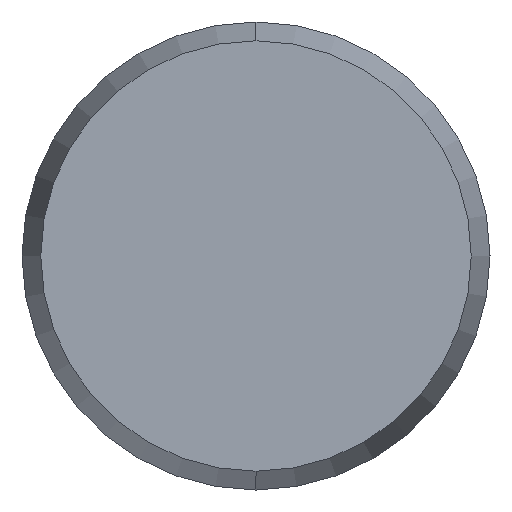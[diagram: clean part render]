
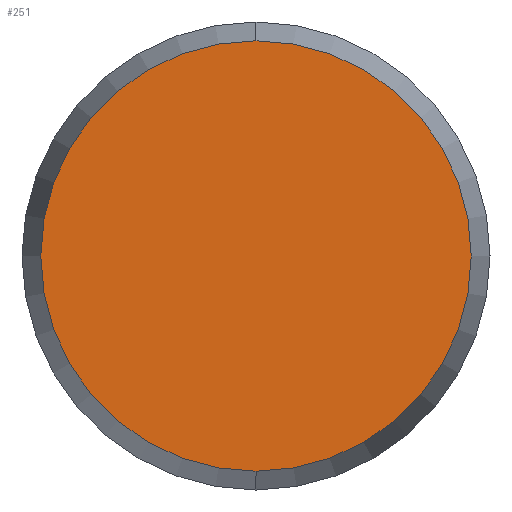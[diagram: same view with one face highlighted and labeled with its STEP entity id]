
A CAD part, left-side view. The second image highlights one B-rep face of the part: STEP entity #251.
In plain terms, the highlighted planar face has unit normal (-1, 0, 0).
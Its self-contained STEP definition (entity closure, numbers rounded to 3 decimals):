
#33 = CARTESIAN_POINT ( 'NONE',  ( -14., 0., -4.598 ) ) ;
#34 = CARTESIAN_POINT ( 'NONE',  ( -14., 0., 4.598 ) ) ;
#48 = DIRECTION ( 'NONE',  ( 0., 0., -1. ) ) ;
#49 = DIRECTION ( 'NONE',  ( 1., 0., 0. ) ) ;
#50 = CARTESIAN_POINT ( 'NONE',  ( -14., 0., 0. ) ) ;
#51 = AXIS2_PLACEMENT_3D ( 'NONE', #50, #49, #48 ) ;
#52 = CIRCLE ( 'NONE', #51, 4.598 ) ;
#56 = DIRECTION ( 'NONE',  ( 0., 0., -1. ) ) ;
#57 = DIRECTION ( 'NONE',  ( 1., 0., 0. ) ) ;
#58 = CARTESIAN_POINT ( 'NONE',  ( -14., 0., 0. ) ) ;
#59 = AXIS2_PLACEMENT_3D ( 'NONE', #58, #57, #56 ) ;
#60 = PLANE ( 'NONE',  #59 ) ;
#62 = FACE_OUTER_BOUND ( 'NONE', #250, .T. ) ;
#110 = AXIS2_PLACEMENT_3D ( 'NONE', #112, #111, #113 ) ;
#111 = DIRECTION ( 'NONE',  ( 1., 0., 0. ) ) ;
#112 = CARTESIAN_POINT ( 'NONE',  ( -14., 0., 0. ) ) ;
#113 = DIRECTION ( 'NONE',  ( 0., 0., -1. ) ) ;
#114 = CIRCLE ( 'NONE', #110, 4.598 ) ;
#208 = VERTEX_POINT ( 'NONE', #33 ) ;
#209 = VERTEX_POINT ( 'NONE', #34 ) ;
#217 = EDGE_CURVE ( 'NONE', #209, #208, #52, .T. ) ;
#250 = EDGE_LOOP ( 'NONE', ( #255, #274 ) ) ;
#251 = ADVANCED_FACE ( 'NONE', ( #62 ), #60, .F. ) ;
#255 = ORIENTED_EDGE ( 'NONE', *, *, #217, .F. ) ;
#264 = EDGE_CURVE ( 'NONE', #208, #209, #114, .T. ) ;
#274 = ORIENTED_EDGE ( 'NONE', *, *, #264, .F. ) ;
